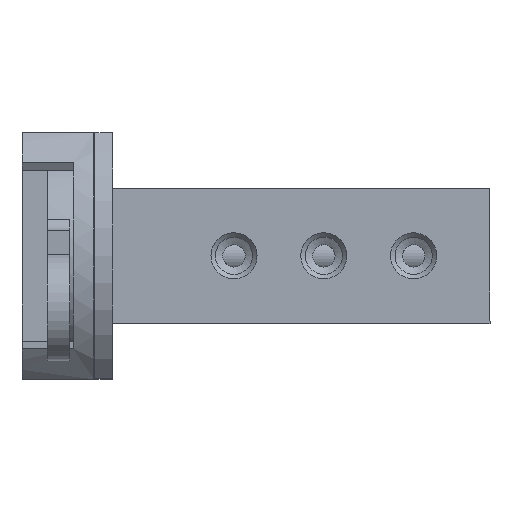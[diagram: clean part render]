
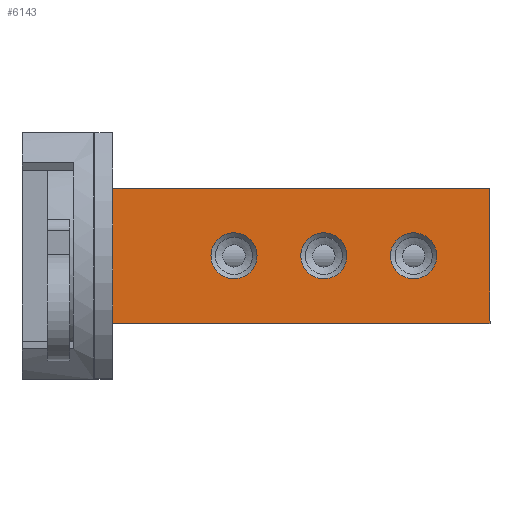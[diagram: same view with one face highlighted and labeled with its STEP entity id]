
A CAD part, top view. The second image highlights one B-rep face of the part: STEP entity #6143.
In plain terms, the highlighted planar face has unit normal (0, 0, 1).
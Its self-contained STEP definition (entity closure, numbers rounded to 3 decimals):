
#76=LINE('',#11046,#626);
#112=LINE('',#11355,#662);
#126=LINE('',#11520,#676);
#127=LINE('',#11524,#677);
#626=VECTOR('',#9216,1000.);
#662=VECTOR('',#9256,1000.);
#676=VECTOR('',#9296,1000.);
#677=VECTOR('',#9301,1000.);
#1283=PLANE('',#8566);
#1659=ORIENTED_EDGE('',*,*,#3341,.T.);
#1660=ORIENTED_EDGE('',*,*,#3342,.T.);
#1661=ORIENTED_EDGE('',*,*,#3343,.T.);
#1662=ORIENTED_EDGE('',*,*,#3301,.T.);
#1663=ORIENTED_EDGE('',*,*,#3331,.T.);
#1664=ORIENTED_EDGE('',*,*,#3252,.F.);
#1665=ORIENTED_EDGE('',*,*,#3333,.F.);
#3252=EDGE_CURVE('',#4101,#4098,#76,.T.);
#3301=EDGE_CURVE('',#4151,#4149,#112,.T.);
#3331=EDGE_CURVE('',#4149,#4098,#126,.T.);
#3333=EDGE_CURVE('',#4151,#4101,#127,.T.);
#3341=EDGE_CURVE('',#4186,#4186,#4679,.F.);
#3342=EDGE_CURVE('',#4187,#4187,#4680,.F.);
#3343=EDGE_CURVE('',#4188,#4188,#4681,.F.);
#4098=VERTEX_POINT('',#11040);
#4101=VERTEX_POINT('',#11045);
#4149=VERTEX_POINT('',#11353);
#4151=VERTEX_POINT('',#11356);
#4186=VERTEX_POINT('',#11543);
#4187=VERTEX_POINT('',#11545);
#4188=VERTEX_POINT('',#11547);
#4679=CIRCLE('',#8567,2.567);
#4680=CIRCLE('',#8568,2.567);
#4681=CIRCLE('',#8569,2.567);
#4929=EDGE_LOOP('',(#1659));
#4930=EDGE_LOOP('',(#1660));
#4931=EDGE_LOOP('',(#1661));
#4932=EDGE_LOOP('',(#1662,#1663,#1664,#1665));
#5509=FACE_BOUND('',#4929,.T.);
#5510=FACE_BOUND('',#4930,.T.);
#5511=FACE_BOUND('',#4931,.T.);
#5512=FACE_BOUND('',#4932,.T.);
#6143=ADVANCED_FACE('',(#5509,#5510,#5511,#5512),#1283,.T.);
#8566=AXIS2_PLACEMENT_3D('',#11541,#9321,#9322);
#8567=AXIS2_PLACEMENT_3D('',#11542,#9323,#9324);
#8568=AXIS2_PLACEMENT_3D('',#11544,#9325,#9326);
#8569=AXIS2_PLACEMENT_3D('',#11546,#9327,#9328);
#9216=DIRECTION('',(-1.,0.,0.));
#9256=DIRECTION('',(-1.,0.,0.));
#9296=DIRECTION('',(0.,-1.,0.));
#9301=DIRECTION('',(0.,-1.,0.));
#9321=DIRECTION('',(0.,0.,1.));
#9322=DIRECTION('',(-1.,0.,0.));
#9323=DIRECTION('',(0.,0.,1.));
#9324=DIRECTION('',(0.,-1.,0.));
#9325=DIRECTION('',(0.,0.,1.));
#9326=DIRECTION('',(0.,-1.,0.));
#9327=DIRECTION('',(0.,0.,1.));
#9328=DIRECTION('',(0.,-1.,0.));
#11040=CARTESIAN_POINT('',(-42.,-7.5,12.5));
#11045=CARTESIAN_POINT('',(0.,-7.5,12.5));
#11046=CARTESIAN_POINT('',(-10.,-7.5,12.5));
#11353=CARTESIAN_POINT('',(-42.,7.5,12.5));
#11355=CARTESIAN_POINT('',(-10.,7.5,12.5));
#11356=CARTESIAN_POINT('',(0.,7.5,12.5));
#11520=CARTESIAN_POINT('',(-42.,7.5,12.5));
#11524=CARTESIAN_POINT('',(0.,7.5,12.5));
#11541=CARTESIAN_POINT('',(-10.,7.5,12.5));
#11542=CARTESIAN_POINT('',(-8.5,0.,12.5));
#11543=CARTESIAN_POINT('',(-8.5,-2.567,12.5));
#11544=CARTESIAN_POINT('',(-18.5,0.,12.5));
#11545=CARTESIAN_POINT('',(-18.5,-2.567,12.5));
#11546=CARTESIAN_POINT('',(-28.5,0.,12.5));
#11547=CARTESIAN_POINT('',(-28.5,-2.567,12.5));
